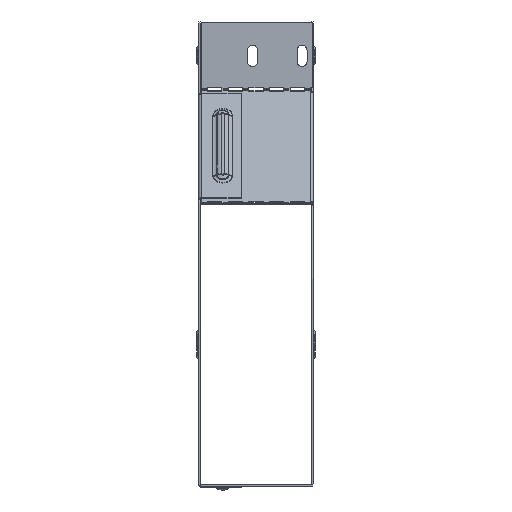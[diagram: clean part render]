
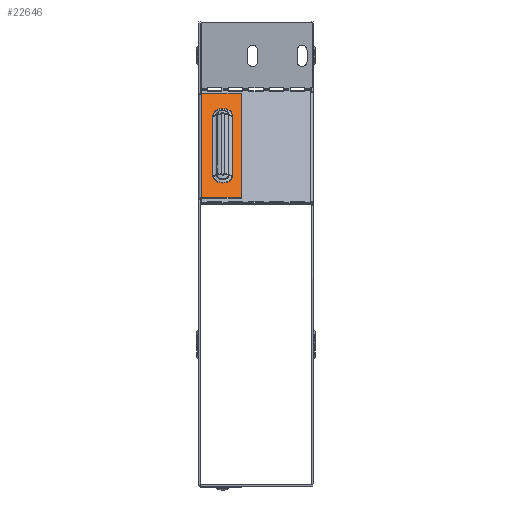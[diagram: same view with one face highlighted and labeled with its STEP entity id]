
A CAD part, left-side view. The second image highlights one B-rep face of the part: STEP entity #22646.
In plain terms, the highlighted planar face has unit normal (-0.707, 0, 0.707).
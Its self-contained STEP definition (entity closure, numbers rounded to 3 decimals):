
#3 = DIRECTION ( 'NONE',  ( 0., -1., 0. ) ) ;
#127 = ORIENTED_EDGE ( 'NONE', *, *, #6917, .F. ) ;
#212 = DIRECTION ( 'NONE',  ( 0., 1., 0. ) ) ;
#665 = DIRECTION ( 'NONE',  ( -0.707, 0., -0.707 ) ) ;
#779 = CARTESIAN_POINT ( 'NONE',  ( -162.152, 70.817, 219.725 ) ) ;
#793 = CARTESIAN_POINT ( 'NONE',  ( -162.152, 63.9, 219.725 ) ) ;
#1028 = EDGE_CURVE ( 'NONE', #1121, #1911, #17079, .T. ) ;
#1121 = VERTEX_POINT ( 'NONE', #8750 ) ;
#1390 = VECTOR ( 'NONE', #665, 1000. ) ;
#1573 = LINE ( 'NONE', #15090, #23929 ) ;
#1723 = CARTESIAN_POINT ( 'NONE',  ( -162.152, 56.983, 219.725 ) ) ;
#1911 = VERTEX_POINT ( 'NONE', #15374 ) ;
#2188 = EDGE_CURVE ( 'NONE', #8862, #5445, #18206, .T. ) ;
#2954 = DIRECTION ( 'NONE',  ( -0.5, 0.707, -0.5 ) ) ;
#3704 = CARTESIAN_POINT ( 'NONE',  ( -103.96, 80.8, 277.917 ) ) ;
#4240 = EDGE_LOOP ( 'NONE', ( #16638, #18464, #127, #6091 ) ) ;
#5445 = VERTEX_POINT ( 'NONE', #23025 ) ;
#5530 = DIRECTION ( 'NONE',  ( 0.707, 0., 0.707 ) ) ;
#6091 = ORIENTED_EDGE ( 'NONE', *, *, #23925, .F. ) ;
#6195 = FACE_BOUND ( 'NONE', #12778, .T. ) ;
#6550 = CARTESIAN_POINT ( 'NONE',  ( -190.938, 50.8, 190.938 ) ) ;
#6917 = EDGE_CURVE ( 'NONE', #17417, #1911, #15826, .T. ) ;
#7048 = FACE_OUTER_BOUND ( 'NONE', #4240, .T. ) ;
#7101 = EDGE_CURVE ( 'NONE', #13899, #16834, #7259, .T. ) ;
#7259 = LINE ( 'NONE', #19398, #1390 ) ;
#7508 = CARTESIAN_POINT ( 'NONE',  ( -119.725, 70.817, 262.152 ) ) ;
#8025 = DIRECTION ( 'NONE',  ( 0.707, 0., -0.707 ) ) ;
#8331 = VERTEX_POINT ( 'NONE', #14178 ) ;
#8385 = ORIENTED_EDGE ( 'NONE', *, *, #2188, .T. ) ;
#8566 = VECTOR ( 'NONE', #212, 1000. ) ;
#8750 = CARTESIAN_POINT ( 'NONE',  ( -177.917, 50.8, 203.96 ) ) ;
#8862 = VERTEX_POINT ( 'NONE', #779 ) ;
#9150 = DIRECTION ( 'NONE',  ( -0.707, 0., -0.707 ) ) ;
#10330 = LINE ( 'NONE', #16903, #8566 ) ;
#10675 = AXIS2_PLACEMENT_3D ( 'NONE', #793, #8025, #17383 ) ;
#11108 = AXIS2_PLACEMENT_3D ( 'NONE', #18695, #13152, #9150 ) ;
#12358 = EDGE_CURVE ( 'NONE', #16834, #8862, #18703, .T. ) ;
#12778 = EDGE_LOOP ( 'NONE', ( #8385, #19672, #18085, #16930 ) ) ;
#13152 = DIRECTION ( 'NONE',  ( 0.707, 0., -0.707 ) ) ;
#13171 = AXIS2_PLACEMENT_3D ( 'NONE', #14032, #15786, #2954 ) ;
#13217 = CIRCLE ( 'NONE', #13171, 6.917 ) ;
#13899 = VERTEX_POINT ( 'NONE', #24063 ) ;
#14032 = CARTESIAN_POINT ( 'NONE',  ( -119.725, 63.9, 262.152 ) ) ;
#14178 = CARTESIAN_POINT ( 'NONE',  ( -177.917, 79., 203.96 ) ) ;
#14387 = VECTOR ( 'NONE', #5530, 1000. ) ;
#15046 = PLANE ( 'NONE',  #11108 ) ;
#15090 = CARTESIAN_POINT ( 'NONE',  ( -101.838, 79., 280.038 ) ) ;
#15347 = DIRECTION ( 'NONE',  ( 0.707, 0., 0.707 ) ) ;
#15374 = CARTESIAN_POINT ( 'NONE',  ( -103.96, 50.8, 277.917 ) ) ;
#15786 = DIRECTION ( 'NONE',  ( 0.707, 0., -0.707 ) ) ;
#15826 = LINE ( 'NONE', #3704, #17281 ) ;
#16638 = ORIENTED_EDGE ( 'NONE', *, *, #19006, .F. ) ;
#16834 = VERTEX_POINT ( 'NONE', #1723 ) ;
#16903 = CARTESIAN_POINT ( 'NONE',  ( -177.917, 81.899, 203.96 ) ) ;
#16930 = ORIENTED_EDGE ( 'NONE', *, *, #12358, .T. ) ;
#17079 = LINE ( 'NONE', #6550, #20909 ) ;
#17281 = VECTOR ( 'NONE', #3, 1000. ) ;
#17383 = DIRECTION ( 'NONE',  ( -0.5, 0.707, -0.5 ) ) ;
#17417 = VERTEX_POINT ( 'NONE', #22853 ) ;
#18085 = ORIENTED_EDGE ( 'NONE', *, *, #7101, .T. ) ;
#18206 = LINE ( 'NONE', #7508, #14387 ) ;
#18464 = ORIENTED_EDGE ( 'NONE', *, *, #1028, .T. ) ;
#18695 = CARTESIAN_POINT ( 'NONE',  ( -190.938, 80.8, 190.938 ) ) ;
#18703 = CIRCLE ( 'NONE', #10675, 6.917 ) ;
#19006 = EDGE_CURVE ( 'NONE', #1121, #8331, #10330, .T. ) ;
#19398 = CARTESIAN_POINT ( 'NONE',  ( -119.725, 56.983, 262.152 ) ) ;
#19672 = ORIENTED_EDGE ( 'NONE', *, *, #22898, .T. ) ;
#19701 = DIRECTION ( 'NONE',  ( 0.707, 0., 0.707 ) ) ;
#20909 = VECTOR ( 'NONE', #19701, 1000. ) ;
#22646 = ADVANCED_FACE ( 'NONE', ( #6195, #7048 ), #15046, .F. ) ;
#22853 = CARTESIAN_POINT ( 'NONE',  ( -103.96, 79., 277.917 ) ) ;
#22898 = EDGE_CURVE ( 'NONE', #5445, #13899, #13217, .T. ) ;
#23025 = CARTESIAN_POINT ( 'NONE',  ( -119.725, 70.817, 262.152 ) ) ;
#23925 = EDGE_CURVE ( 'NONE', #8331, #17417, #1573, .T. ) ;
#23929 = VECTOR ( 'NONE', #15347, 1000. ) ;
#24063 = CARTESIAN_POINT ( 'NONE',  ( -119.725, 56.983, 262.152 ) ) ;
